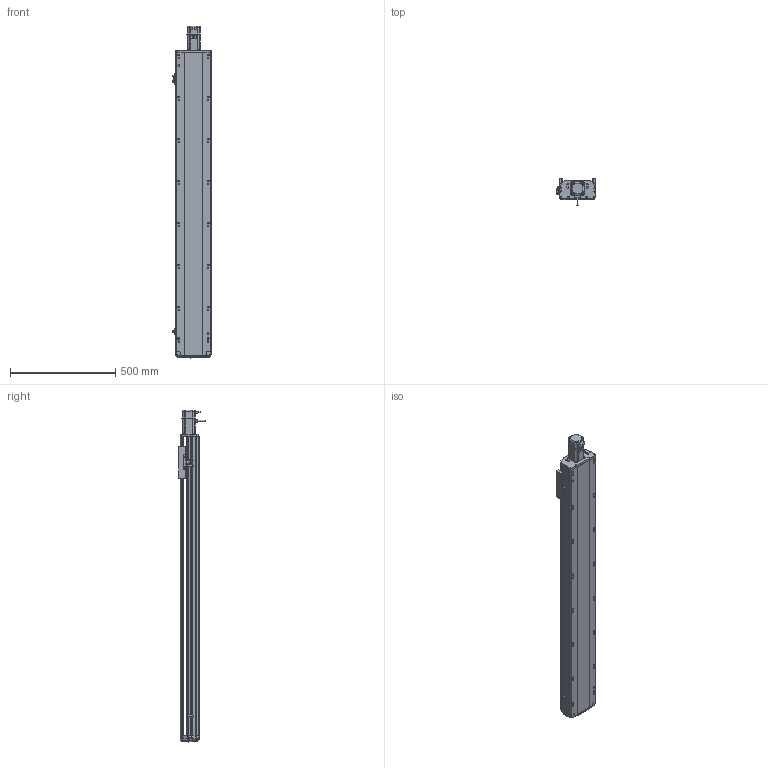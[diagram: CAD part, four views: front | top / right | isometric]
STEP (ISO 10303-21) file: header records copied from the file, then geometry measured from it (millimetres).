
FILE_DESCRIPTION (( 'STEP AP214' ), '1' );
FILE_NAME ('RTH17-XX-1200-E-M40-C4.STEP', '2025-10-24T05:46:21', ( '' ), ( '' ), 'SwSTEP 2.0', 'SolidWorks 2018', '' );
FILE_SCHEMA (( 'AUTOMOTIVE_DESIGN' ));
Length unit declared in the file: millimetre
Products named in the file (9): N_M40^RTH17-XX-XX-E-M40-C4（方程式）; N_RTH17-E-007上盖^RTH17-XX-XX-E-M40-C4（方程式）; N_OMRON EE-SX672 換覜ん^RTH17-XX-XX-E-M40-C4ㄗ源最宒ㄘ; N_RTH-BL-012 感应片(外置)^RTH17-XX-XX-E-M40-C4（方程式）; N_RTH17-GY-001P^RTH17-XX-XX-E-M40-C4（方程式）; N_RTH17-E-008-P40电机板^RTH17-XX-XX-E-M40-C4（方程式）; N_RTH17-E-011底座^RTH17-XX-XX-E-M40-C4（方程式）; RTH17-XX-1200-E-M40-C4; N_RTH17-E-004丝杆螺母连接座^RTH17-XX-XX-E-M40-C4（方程式）
Assembly tree (10 placements, depth 2):
  RTH17-XX-1200-E-M40-C4
    N_RTH17-E-011底座^RTH17-XX-XX-E-M40-C4（方程式）
    N_RTH17-E-007上盖^RTH17-XX-XX-E-M40-C4（方程式）
    N_RTH17-E-008-P40电机板^RTH17-XX-XX-E-M40-C4（方程式）
    N_OMRON EE-SX672 換覜ん^RTH17-XX-XX-E-M40-C4ㄗ源最宒ㄘ  x3
    N_RTH-BL-012 感应片(外置)^RTH17-XX-XX-E-M40-C4（方程式）
    N_RTH17-E-004丝杆螺母连接座^RTH17-XX-XX-E-M40-C4（方程式）
    N_RTH17-GY-001P^RTH17-XX-XX-E-M40-C4（方程式）
    N_M40^RTH17-XX-XX-E-M40-C4（方程式）
Bounding box: 183.5 x 127 x 1580.69 mm (x, y, z)
Volume: 11231002.1 mm3; surface area: 1480245.4 mm2
Topology: 9 solids, 11 shells, 1713 faces, 4819 edges, 3146 vertices
Faces by surface type: plane 833, cylinder 513, bspline 330, cone 28, torus 9
Entity records: 51101 total; most frequent: CARTESIAN_POINT 20286, ORIENTED_EDGE 6662, DIRECTION 5535, EDGE_CURVE 3335, VERTEX_POINT 2182, AXIS2_PLACEMENT_3D 1852, LINE 1831, VECTOR 1831
